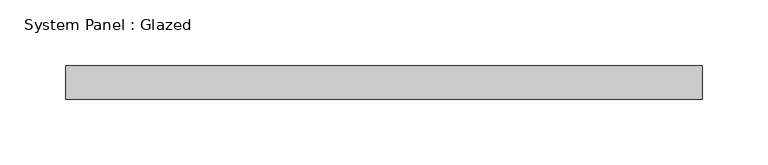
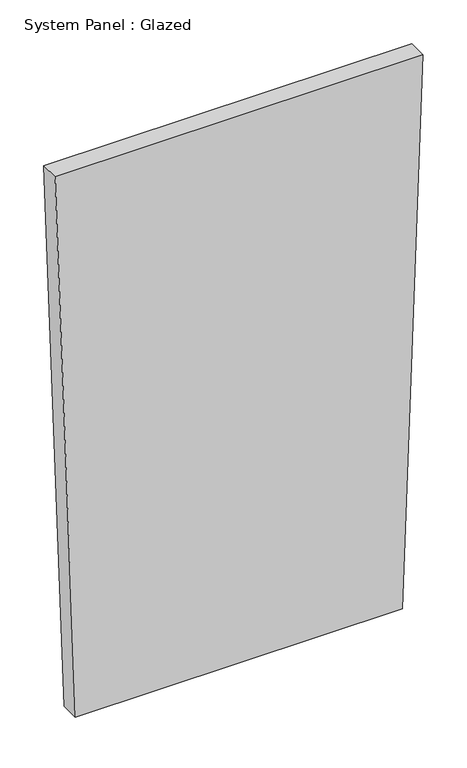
"""IFC4 building model written with IfcOpenShell, lengths in millimetres: plate geometry, System Panel : Glazed."""

import ifcopenshell
import ifcopenshell.guid

model = None  # the IFC model being written
_history = None  # IfcOwnerHistory: only IFC2X3 demands one
_inside = {}  # id of a spatial element -> (the spatial element, [elements in it])
_under = {}  # id of a project, library or spatial element -> (it, [spatial elements below it])
_declared = {}  # id of a project -> (the project, [libraries it declares])
_typed = {}  # id of a type object -> (the type object, [elements of that type])
_made_of = {}  # id of a material, layer set ... -> (it, [elements and type objects made of it])


def new_model(schema):
    """Start an empty IFC model of exactly this schema.

    Asked for "IFC4X3", IfcOpenShell would pick the latest addendum, in which some entities
    have other attributes; the version numbers below select the first issue.
    IFC2X3 requires an IfcOwnerHistory on every rooted entity: one is made here for all.
    """
    global model, _history
    if schema == "IFC4X3":
        model = ifcopenshell.file(schema_version=(4, 3, 0, 0))
    else:
        model = ifcopenshell.file(schema=schema)
    _inside.clear()
    _under.clear()
    _declared.clear()
    _typed.clear()
    _made_of.clear()
    _history = None
    if model.schema == "IFC2X3":
        org = make("IfcOrganization", Name="unknown")
        user = make(
            "IfcPersonAndOrganization",
            ThePerson=make("IfcPerson", FamilyName="unknown"),
            TheOrganization=org,
        )
        app = make(
            "IfcApplication",
            ApplicationDeveloper=org,
            Version="unknown",
            ApplicationFullName="unknown",
            ApplicationIdentifier="unknown",
        )
        _history = make(
            "IfcOwnerHistory",
            OwningUser=user,
            OwningApplication=app,
            ChangeAction="ADDED",
            CreationDate=0,
        )
    return model


def make(cls, **values):
    """One entity of the class cls with the attributes given. An attribute that is None is left unset."""
    return model.create_entity(
        cls, **{name: value for name, value in values.items() if value is not None}
    )


def rooted(cls, **values):
    """An entity with a GlobalId (a new one), such as an element, a storey or a relation."""
    return make(cls, GlobalId=ifcopenshell.guid.new(), OwnerHistory=_history, **values)


def si_unit(unit_type, name, prefix=None):
    """IfcSIUnit, for example si_unit("LENGTHUNIT", "METRE", prefix="MILLI")."""
    return make("IfcSIUnit", UnitType=unit_type, Prefix=prefix, Name=name)


def assignment(units):
    """IfcUnitAssignment: the units of a project."""
    return None if units is None else make("IfcUnitAssignment", Units=units)


def point(xyz):
    """IfcCartesianPoint."""
    return None if xyz is None else make("IfcCartesianPoint", Coordinates=xyz)


def direction(xyz):
    """IfcDirection."""
    return None if xyz is None else make("IfcDirection", DirectionRatios=xyz)


def frame(location, z_axis=None, x_axis=None):
    """IfcAxis2Placement3D, a coordinate frame: its origin and axes. An axis left out is left unset."""
    return make(
        "IfcAxis2Placement3D",
        Location=point(location),
        Axis=direction(z_axis),
        RefDirection=direction(x_axis),
    )


def origin():
    """The frame at (0, 0, 0) with its axes left unset."""
    return frame((0.0, 0.0, 0.0))


def place(relative_to, where):
    """IfcLocalPlacement: puts the frame where relative to a parent placement (None: the world)."""
    return make(
        "IfcLocalPlacement", PlacementRelTo=relative_to, RelativePlacement=where
    )


def context(
    kind, dimensions, precision=None, world=None, true_north=None, identifier=None
):
    """IfcGeometricRepresentationContext, for example the 3D "Model" context."""
    return make(
        "IfcGeometricRepresentationContext",
        ContextIdentifier=identifier,
        ContextType=kind,
        CoordinateSpaceDimension=dimensions,
        Precision=precision,
        WorldCoordinateSystem=world,
        TrueNorth=true_north,
    )


def project(units=None, contexts=None):
    """IfcProject with its units and contexts."""
    return rooted(
        "IfcProject",
        Name="project",
        RepresentationContexts=contexts,
        UnitsInContext=assignment(units),
    )


def spatial(cls, under=None, at=None, **own):
    """A site, building, storey or space (cls), placed at a placement, below another one or the project."""
    s = rooted(cls, ObjectPlacement=at, **own)
    if under is not None:
        _under.setdefault(under.id(), (under, []))[1].append(s)
    return s


def polyline(points):
    """IfcPolyline through the points."""
    return make("IfcPolyline", Points=[point(p) for p in points])


def outline(outer, holes=None, kind="AREA"):
    """IfcArbitraryClosedProfileDef: a profile drawn as a closed curve; with holes, ...WithVoids."""
    if holes is None:
        return make("IfcArbitraryClosedProfileDef", ProfileType=kind, OuterCurve=outer)
    return make(
        "IfcArbitraryProfileDefWithVoids",
        ProfileType=kind,
        OuterCurve=outer,
        InnerCurves=holes,
    )


def extrude(swept, where, along, depth):
    """IfcExtrudedAreaSolid: the profile swept, set in the frame where, extruded along a direction by depth."""
    return make(
        "IfcExtrudedAreaSolid",
        SweptArea=swept,
        Position=where,
        ExtrudedDirection=direction(along),
        Depth=depth,
    )


def shape(context_of_items, identifier, shape_type, items):
    """IfcShapeRepresentation: the items that make up one representation, for example the "Body"."""
    return make(
        "IfcShapeRepresentation",
        ContextOfItems=context_of_items,
        RepresentationIdentifier=identifier,
        RepresentationType=shape_type,
        Items=items,
    )


def source(mapping_origin, context_of_items, identifier, shape_type, items):
    """IfcRepresentationMap: a shape defined once, which mapped items show again and again."""
    return make(
        "IfcRepresentationMap",
        MappingOrigin=mapping_origin,
        MappedRepresentation=shape(context_of_items, identifier, shape_type, items),
    )


def transform(
    local_origin,
    x_axis=None,
    y_axis=None,
    z_axis=None,
    scale=None,
    scale2=None,
    scale3=None,
    uniform=True,
):
    """IfcCartesianTransformationOperator3D, or its non-uniform kind. x_axis, y_axis, z_axis: its Axis1, 2, 3."""
    if uniform:
        return make(
            "IfcCartesianTransformationOperator3D",
            Axis1=direction(x_axis),
            Axis2=direction(y_axis),
            LocalOrigin=point(local_origin),
            Scale=scale,
            Axis3=direction(z_axis),
        )
    return make(
        "IfcCartesianTransformationOperator3DnonUniform",
        Axis1=direction(x_axis),
        Axis2=direction(y_axis),
        LocalOrigin=point(local_origin),
        Scale=scale,
        Axis3=direction(z_axis),
        Scale2=scale2,
        Scale3=scale3,
    )


def mapped(mapping_source, mapping_target):
    """IfcMappedItem: shows the shape of a source again, moved by a transform."""
    return make(
        "IfcMappedItem", MappingSource=mapping_source, MappingTarget=mapping_target
    )


def made_of(thing, what):
    """Note that an element or type object is made of a material, layer set ...; save() writes the relation."""
    if what is not None:
        _made_of.setdefault(what.id(), (what, []))[1].append(thing)
    return thing


def element(
    cls,
    number,
    at=None,
    inside=None,
    cuts=None,
    type_object=None,
    material=None,
    context=None,
    identifier="Body",
    shape_type=None,
    held_by="IfcProductDefinitionShape",
    body=None,
    shapes=None,
    **own,
):
    """One element of the class cls, such as IfcWall. Its Tag is "e" and its number.

    at: its placement. inside: the storey or other place that contains it. cuts: it is an
    opening in that element (IfcRelVoidsElement). A single representation is given by context,
    identifier, shape_type and body (its items); several are given by shapes. held_by: the class
    of the entity that holds the representations. save() writes the other relations.
    """
    e = rooted(cls, Tag="e%d" % number, ObjectPlacement=at, **own)
    if body is not None:
        shapes = [shape(context, identifier, shape_type, body)]
    if shapes is not None:
        e.Representation = make(held_by, Representations=shapes)
    if inside is not None:
        _inside.setdefault(inside.id(), (inside, []))[1].append(e)
    if cuts is not None:
        rooted(
            "IfcRelVoidsElement", RelatingBuildingElement=cuts, RelatedOpeningElement=e
        )
    if type_object is not None:
        _typed.setdefault(type_object.id(), (type_object, []))[1].append(e)
    return made_of(e, material)


def aggregate(whole, parts):
    """IfcRelAggregates: a whole, such as a stair, and the parts it consists of."""
    return rooted("IfcRelAggregates", RelatingObject=whole, RelatedObjects=parts)


def save(model, path):
    """Write the relations noted so far, then the file.

    IfcRelAggregates (storeys below a building ...), IfcRelContainedInSpatialStructure (elements
    in a storey), IfcRelDefinesByType, IfcRelAssociatesMaterial and IfcRelDeclares: one each for
    every whole, place, type object, material and project.
    """
    for whole, parts in _under.values():
        aggregate(whole, parts)
    for where, things in _inside.values():
        rooted(
            "IfcRelContainedInSpatialStructure",
            RelatedElements=things,
            RelatingStructure=where,
        )
    for kind, things in _typed.values():
        rooted("IfcRelDefinesByType", RelatedObjects=things, RelatingType=kind)
    for what, things in _made_of.values():
        rooted("IfcRelAssociatesMaterial", RelatedObjects=things, RelatingMaterial=what)
    for by, libraries in _declared.values():
        rooted("IfcRelDeclares", RelatingContext=by, RelatedDefinitions=libraries)
    model.write(path)


def system_panel_glazed_54807085(model_context):
    return source(origin(), model_context, "Body", "SweptSolid", [
        extrude(outline(polyline([(0.0, -215.4675475), (0.0, 215.4675475), (761.5238602, 242.4009909), (761.5238602, -242.4009909), (0.0, -215.4675475)])), frame((0.0, -44.45, 0.0), z_axis=(0.0, 1.0, 0.0), x_axis=(0.0, 0.0, 1.0)), (0.0, 0.0, 1.0), 25.4),
    ])


if __name__ == "__main__":
    model = new_model("IFC4")
    model_context = context("Model", 3, world=origin())
    ifc_project = project(units=[si_unit("LENGTHUNIT", "METRE", prefix="MILLI")], contexts=[model_context])
    site = spatial("IfcSite", under=ifc_project)
    building = spatial("IfcBuilding", under=site)
    placement = place(None, origin())
    system_panel_glazed_shape = system_panel_glazed_54807085(model_context)
    element("IfcPlate", 1, ObjectType="System Panel : Glazed", at=placement, inside=building, context=model_context, shape_type="MappedRepresentation", body=[
        mapped(system_panel_glazed_shape, transform((0.0, 0.0, 0.0), x_axis=(1.0, 0.0, 0.0), y_axis=(0.0, 1.0, 0.0), z_axis=(0.0, 0.0, 1.0))),
    ])
    save(model, "model.ifc")
